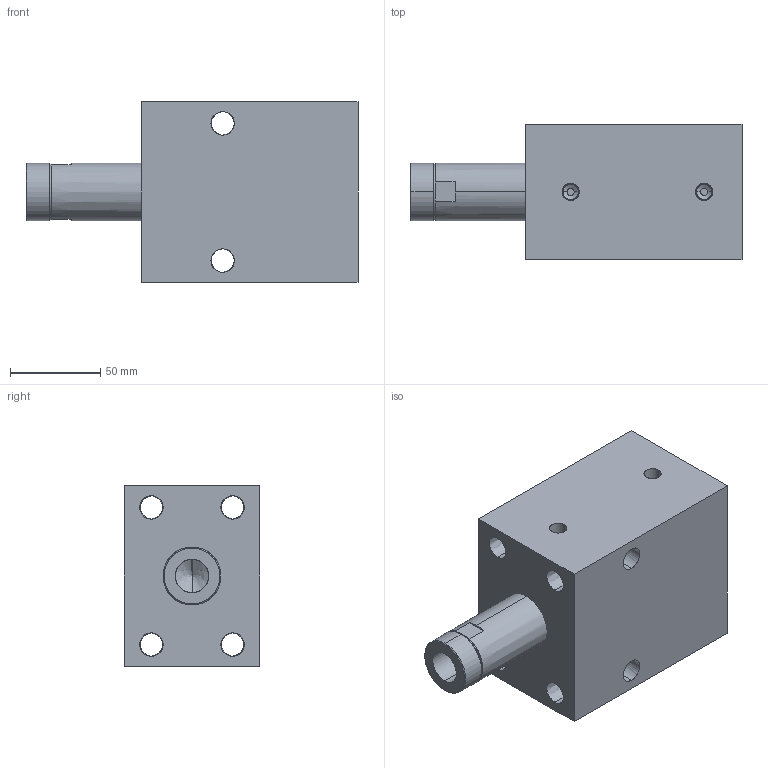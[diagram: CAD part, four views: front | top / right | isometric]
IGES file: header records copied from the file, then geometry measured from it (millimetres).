
Start section: SolidWorks IGES file using analytic representation for surfaces
Global section: file name: C:\Documents and Settings\rajib\Desktop\Rajib\BLOCK CYLINDER HYDRAULIC\0501-0506\IGS 0501-0508\0504.IGS; native system: SolidWorks 2007; preprocessor: SolidWorks 2007; author: rajib; date: 110121.103822; units: millimetre
Bounding box: 184 x 75 x 100 mm (x, y, z)
Surface area: 94353.2 mm2 (no closed solid volume)
Topology: 0 solids, 0 shells, 80 faces, 1872 edges, 1870 vertices
Faces by surface type: revolution 58, bspline 22
